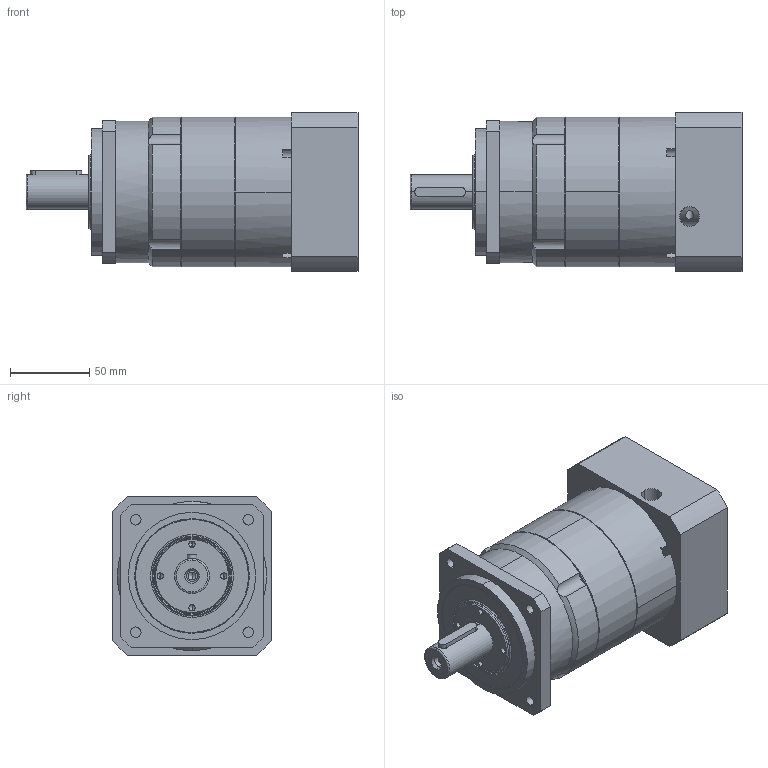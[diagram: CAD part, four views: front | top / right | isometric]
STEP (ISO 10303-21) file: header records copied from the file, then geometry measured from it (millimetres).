
FILE_DESCRIPTION (( 'STEP AP203' ), '1' );
FILE_NAME ('PLM090-L2-19-95-115.STEP', '2026-09-30T03:01:30', ( 'Windows User' ), ( 'P R C' ), 'SwSTEP 2.0', 'SolidWorks 2016', '' );
FILE_SCHEMA (( 'CONFIG_CONTROL_DESIGN' ));
Length unit declared in the file: millimetre
Products named in the file (8): 油封範本 TC 72x50x8_TC-34.9-55-7; 内六角圆柱头螺钉M6×16; A倰す瑩 6x6x32; PLM90 珨撰蟀諉啣 100選 095x10 115xM8 45L; PLM090-L2-19-95-115; 奻裔啣; 二级齿圈; PLM90-狟裔
Assembly tree (7 placements, depth 2):
  PLM090-L2-19-95-115
    奻裔啣
    二级齿圈
    PLM90-狟裔
    油封範本 TC 72x50x8_TC-34.9-55-7
    内六角圆柱头螺钉M6×16
    A倰す瑩 6x6x32
    PLM90 珨撰蟀諉啣 100選 095x10 115xM8 45L
Bounding box: 209 x 100 x 100 mm (x, y, z)
Volume: 1112695.7 mm3; surface area: 161785.4 mm2
Topology: 7 solids, 7 shells, 865 faces, 2234 edges, 1459 vertices
Faces by surface type: plane 481, bspline 181, cylinder 154, cone 49
Entity records: 35159 total; most frequent: CARTESIAN_POINT 14130, ORIENTED_EDGE 4428, DIRECTION 3627, EDGE_CURVE 2214, VECTOR 1479, LINE 1479, VERTEX_POINT 1459, AXIS2_PLACEMENT_3D 1074
